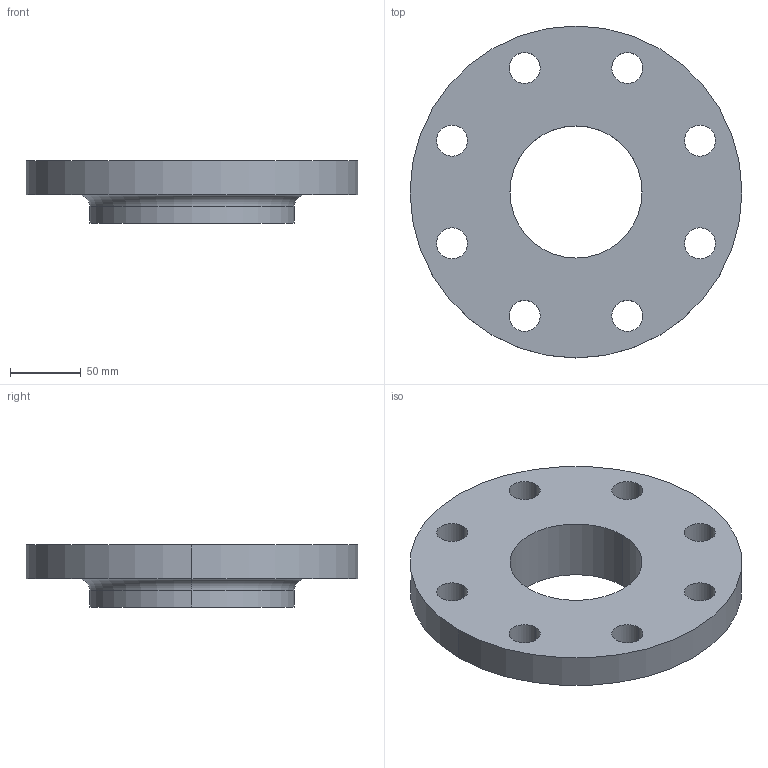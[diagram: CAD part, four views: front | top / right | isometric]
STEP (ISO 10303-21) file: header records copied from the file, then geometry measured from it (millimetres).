
FILE_DESCRIPTION (( 'STEP AP214' ), '1' );
FILE_NAME ('PN40 DN100 Type 13 - Type A Face.STEP', '2019-01-02T00:19:43', ( '' ), ( '' ), 'SwSTEP 2.0', 'SolidWorks 2019', '' );
FILE_SCHEMA (( 'AUTOMOTIVE_DESIGN' ));
Length unit declared in the file: millimetre
Products named in the file (1): PN40 DN100 Type 13 - Type A Face
Bounding box: 235 x 235 x 44 mm (x, y, z)
Volume: 1002509.1 mm3; surface area: 118420.2 mm2
Topology: 1 solids, 1 shells, 27 faces, 70 edges, 46 vertices
Faces by surface type: cylinder 22, plane 3, torus 2
Entity records: 926 total; most frequent: DIRECTION 174, CARTESIAN_POINT 144, ORIENTED_EDGE 140, AXIS2_PLACEMENT_3D 76, EDGE_CURVE 70, CIRCLE 48, VERTEX_POINT 46, EDGE_LOOP 46
